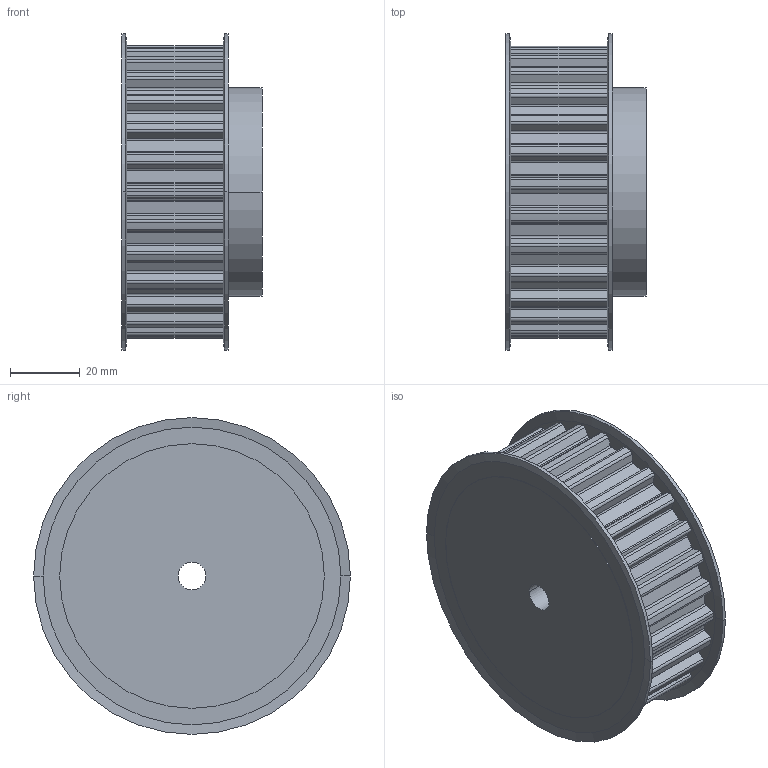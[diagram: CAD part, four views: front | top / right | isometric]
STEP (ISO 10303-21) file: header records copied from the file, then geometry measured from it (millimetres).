
FILE_DESCRIPTION( ( '' ), '1' );
FILE_NAME( 'C:/Users/Stangenbergd/Documents/CAD_Step/1/16432700.stp', '2021-10-19T08:55:40', ( '' ), ( '' ), ' ', ' ', ' ' );
FILE_SCHEMA( ( 'CONFIG_CONTROL_DESIGN' ) );
Length unit declared in the file: millimetre
Products named in the file (1): 1
Bounding box: 40.24 x 91 x 91 mm (x, y, z)
Volume: 180789 mm3; surface area: 29668.1 mm2
Topology: 1 solids, 1 shells, 244 faces, 703 edges, 466 vertices
Faces by surface type: cylinder 148, plane 88, cone 8
Entity records: 8175 total; most frequent: DIRECTION 1497, CARTESIAN_POINT 1414, ORIENTED_EDGE 1406, EDGE_CURVE 703, AXIS2_PLACEMENT_3D 549, VERTEX_POINT 466, LINE 399, VECTOR 399
